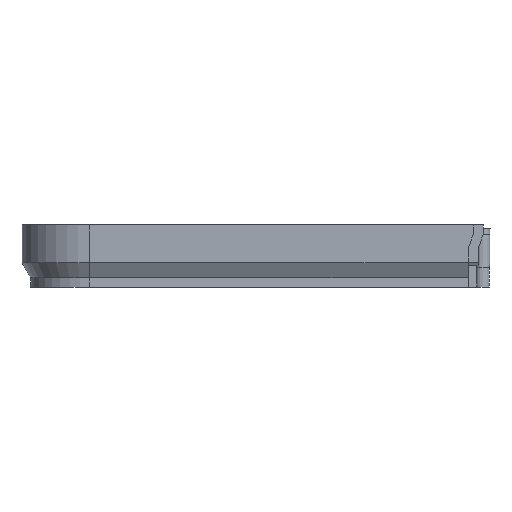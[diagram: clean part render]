
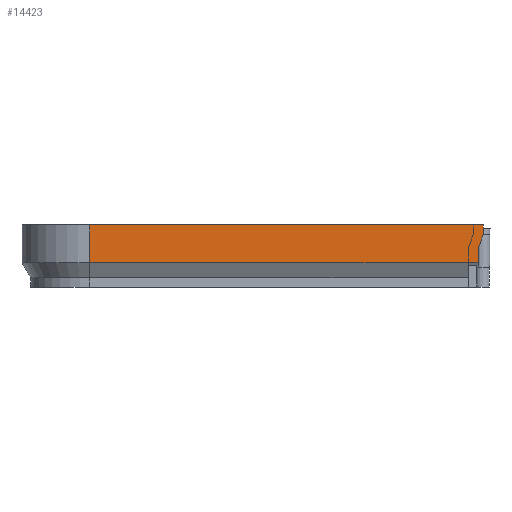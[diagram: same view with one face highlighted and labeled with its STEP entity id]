
A CAD part, left-side view. The second image highlights one B-rep face of the part: STEP entity #14423.
In plain terms, the highlighted planar face has unit normal (-1, 0, 0).
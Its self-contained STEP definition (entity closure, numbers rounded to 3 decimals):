
#1915 = PLANE('',#1916);
#1916 = AXIS2_PLACEMENT_3D('',#1917,#1918,#1919);
#1917 = CARTESIAN_POINT('',(0.,-3.046,25.));
#1918 = DIRECTION('',(0.,0.,1.));
#1919 = DIRECTION('',(1.,0.,-0.));
#6324 = VERTEX_POINT('',#6325);
#6325 = CARTESIAN_POINT('',(-195.2,152.,25.));
#6340 = CYLINDRICAL_SURFACE('',#6341,27.2);
#6341 = AXIS2_PLACEMENT_3D('',#6342,#6343,#6344);
#6342 = CARTESIAN_POINT('',(-168.,152.,9.762));
#6343 = DIRECTION('',(-0.,-0.,-1.));
#6344 = DIRECTION('',(1.,0.,-0.));
#6352 = EDGE_CURVE('',#6324,#6353,#6355,.T.);
#6353 = VERTEX_POINT('',#6354);
#6354 = CARTESIAN_POINT('',(-195.2,-5.9,25.));
#6355 = SURFACE_CURVE('',#6356,(#6360,#6367),.PCURVE_S1.);
#6356 = LINE('',#6357,#6358);
#6357 = CARTESIAN_POINT('',(-195.2,152.,25.));
#6358 = VECTOR('',#6359,1.);
#6359 = DIRECTION('',(0.,-1.,0.));
#6360 = PCURVE('',#1915,#6361);
#6361 = DEFINITIONAL_REPRESENTATION('',(#6362),#6366);
#6362 = LINE('',#6363,#6364);
#6363 = CARTESIAN_POINT('',(-195.2,155.046));
#6364 = VECTOR('',#6365,1.);
#6365 = DIRECTION('',(0.,-1.));
#6366 = ( GEOMETRIC_REPRESENTATION_CONTEXT(2) 
PARAMETRIC_REPRESENTATION_CONTEXT() REPRESENTATION_CONTEXT('2D SPACE',''
  ) );
#6367 = PCURVE('',#6368,#6373);
#6368 = PLANE('',#6369);
#6369 = AXIS2_PLACEMENT_3D('',#6370,#6371,#6372);
#6370 = CARTESIAN_POINT('',(-195.2,152.,9.762));
#6371 = DIRECTION('',(1.,0.,-0.));
#6372 = DIRECTION('',(0.,-1.,0.));
#6373 = DEFINITIONAL_REPRESENTATION('',(#6374),#6378);
#6374 = LINE('',#6375,#6376);
#6375 = CARTESIAN_POINT('',(0.,-15.238));
#6376 = VECTOR('',#6377,1.);
#6377 = DIRECTION('',(1.,0.));
#6378 = ( GEOMETRIC_REPRESENTATION_CONTEXT(2) 
PARAMETRIC_REPRESENTATION_CONTEXT() REPRESENTATION_CONTEXT('2D SPACE',''
  ) );
#6395 = PLANE('',#6396);
#6396 = AXIS2_PLACEMENT_3D('',#6397,#6398,#6399);
#6397 = CARTESIAN_POINT('',(-195.4,-5.9,38.));
#6398 = DIRECTION('',(0.,-1.,0.));
#6399 = DIRECTION('',(1.,0.,0.));
#13979 = PLANE('',#13980);
#13980 = AXIS2_PLACEMENT_3D('',#13981,#13982,#13983);
#13981 = CARTESIAN_POINT('',(-193.45,-12.725,6.731));
#13982 = DIRECTION('',(-0.866,0.,-0.5));
#13983 = DIRECTION('',(0.,-1.,
    0.));
#14077 = PLANE('',#14078);
#14078 = AXIS2_PLACEMENT_3D('',#14079,#14080,#14081);
#14079 = CARTESIAN_POINT('',(-195.4,-3.9,8.));
#14080 = DIRECTION('',(0.,-1.,0.));
#14081 = DIRECTION('',(1.,0.,0.));
#14144 = PLANE('',#14145);
#14145 = AXIS2_PLACEMENT_3D('',#14146,#14147,#14148);
#14146 = CARTESIAN_POINT('',(-195.4,-5.9,21.));
#14147 = DIRECTION('',(0.,-0.94,-0.342));
#14148 = DIRECTION('',(1.,0.,0.));
#14212 = EDGE_CURVE('',#6324,#14213,#14215,.T.);
#14213 = VERTEX_POINT('',#14214);
#14214 = CARTESIAN_POINT('',(-195.2,152.,9.762));
#14215 = SURFACE_CURVE('',#14216,(#14220,#14227),.PCURVE_S1.);
#14216 = LINE('',#14217,#14218);
#14217 = CARTESIAN_POINT('',(-195.2,152.,25.));
#14218 = VECTOR('',#14219,1.);
#14219 = DIRECTION('',(0.,0.,-1.));
#14220 = PCURVE('',#6340,#14221);
#14221 = DEFINITIONAL_REPRESENTATION('',(#14222),#14226);
#14222 = LINE('',#14223,#14224);
#14223 = CARTESIAN_POINT('',(-3.142,-15.238));
#14224 = VECTOR('',#14225,1.);
#14225 = DIRECTION('',(0.,1.));
#14226 = ( GEOMETRIC_REPRESENTATION_CONTEXT(2) 
PARAMETRIC_REPRESENTATION_CONTEXT() REPRESENTATION_CONTEXT('2D SPACE',''
  ) );
#14227 = PCURVE('',#6368,#14228);
#14228 = DEFINITIONAL_REPRESENTATION('',(#14229),#14233);
#14229 = LINE('',#14230,#14231);
#14230 = CARTESIAN_POINT('',(0.,-15.238));
#14231 = VECTOR('',#14232,1.);
#14232 = DIRECTION('',(0.,1.));
#14233 = ( GEOMETRIC_REPRESENTATION_CONTEXT(2) 
PARAMETRIC_REPRESENTATION_CONTEXT() REPRESENTATION_CONTEXT('2D SPACE',''
  ) );
#14380 = EDGE_CURVE('',#6353,#14381,#14383,.T.);
#14381 = VERTEX_POINT('',#14382);
#14382 = CARTESIAN_POINT('',(-195.2,-5.9,21.));
#14383 = SURFACE_CURVE('',#14384,(#14388,#14394),.PCURVE_S1.);
#14384 = LINE('',#14385,#14386);
#14385 = CARTESIAN_POINT('',(-195.2,-5.9,23.881));
#14386 = VECTOR('',#14387,1.);
#14387 = DIRECTION('',(0.,-0.,-1.));
#14388 = PCURVE('',#6395,#14389);
#14389 = DEFINITIONAL_REPRESENTATION('',(#14390),#14393);
#14390 = B_SPLINE_CURVE_WITH_KNOTS('',1,(#14391,#14392),.UNSPECIFIED.,
  .F.,.F.,(2,2),(-1.119,2.881),
  .PIECEWISE_BEZIER_KNOTS.);
#14391 = CARTESIAN_POINT('',(0.2,-13.));
#14392 = CARTESIAN_POINT('',(0.2,-17.));
#14393 = ( GEOMETRIC_REPRESENTATION_CONTEXT(2) 
PARAMETRIC_REPRESENTATION_CONTEXT() REPRESENTATION_CONTEXT('2D SPACE',''
  ) );
#14394 = PCURVE('',#6368,#14395);
#14395 = DEFINITIONAL_REPRESENTATION('',(#14396),#14399);
#14396 = B_SPLINE_CURVE_WITH_KNOTS('',1,(#14397,#14398),.UNSPECIFIED.,
  .F.,.F.,(2,2),(-1.119,2.881),
  .PIECEWISE_BEZIER_KNOTS.);
#14397 = CARTESIAN_POINT('',(157.9,-15.238));
#14398 = CARTESIAN_POINT('',(157.9,-11.238));
#14399 = ( GEOMETRIC_REPRESENTATION_CONTEXT(2) 
PARAMETRIC_REPRESENTATION_CONTEXT() REPRESENTATION_CONTEXT('2D SPACE',''
  ) );
#14423 = ADVANCED_FACE('',(#14424),#6368,.F.);
#14424 = FACE_BOUND('',#14425,.F.);
#14425 = EDGE_LOOP('',(#14426,#14427,#14428,#14429,#14450,#14471));
#14426 = ORIENTED_EDGE('',*,*,#14212,.F.);
#14427 = ORIENTED_EDGE('',*,*,#6352,.T.);
#14428 = ORIENTED_EDGE('',*,*,#14380,.T.);
#14429 = ORIENTED_EDGE('',*,*,#14430,.T.);
#14430 = EDGE_CURVE('',#14381,#14431,#14433,.T.);
#14431 = VERTEX_POINT('',#14432);
#14432 = CARTESIAN_POINT('',(-195.2,-3.9,15.5));
#14433 = SURFACE_CURVE('',#14434,(#14438,#14444),.PCURVE_S1.);
#14434 = LINE('',#14435,#14436);
#14435 = CARTESIAN_POINT('',(-195.2,5.125,-9.319));
#14436 = VECTOR('',#14437,1.);
#14437 = DIRECTION('',(-0.,0.342,-0.94));
#14438 = PCURVE('',#6368,#14439);
#14439 = DEFINITIONAL_REPRESENTATION('',(#14440),#14443);
#14440 = B_SPLINE_CURVE_WITH_KNOTS('',1,(#14441,#14442),.UNSPECIFIED.,
  .F.,.F.,(2,2),(-32.261,-26.409),
  .PIECEWISE_BEZIER_KNOTS.);
#14441 = CARTESIAN_POINT('',(157.9,-11.238));
#14442 = CARTESIAN_POINT('',(155.9,-5.738));
#14443 = ( GEOMETRIC_REPRESENTATION_CONTEXT(2) 
PARAMETRIC_REPRESENTATION_CONTEXT() REPRESENTATION_CONTEXT('2D SPACE',''
  ) );
#14444 = PCURVE('',#14144,#14445);
#14445 = DEFINITIONAL_REPRESENTATION('',(#14446),#14449);
#14446 = B_SPLINE_CURVE_WITH_KNOTS('',1,(#14447,#14448),.UNSPECIFIED.,
  .F.,.F.,(2,2),(-32.261,-26.409),
  .PIECEWISE_BEZIER_KNOTS.);
#14447 = CARTESIAN_POINT('',(0.2,0.));
#14448 = CARTESIAN_POINT('',(0.2,-5.852));
#14449 = ( GEOMETRIC_REPRESENTATION_CONTEXT(2) 
PARAMETRIC_REPRESENTATION_CONTEXT() REPRESENTATION_CONTEXT('2D SPACE',''
  ) );
#14450 = ORIENTED_EDGE('',*,*,#14451,.T.);
#14451 = EDGE_CURVE('',#14431,#14452,#14454,.T.);
#14452 = VERTEX_POINT('',#14453);
#14453 = CARTESIAN_POINT('',(-195.2,-3.9,9.762));
#14454 = SURFACE_CURVE('',#14455,(#14459,#14465),.PCURVE_S1.);
#14455 = LINE('',#14456,#14457);
#14456 = CARTESIAN_POINT('',(-195.2,-3.9,8.881));
#14457 = VECTOR('',#14458,1.);
#14458 = DIRECTION('',(0.,-0.,-1.));
#14459 = PCURVE('',#6368,#14460);
#14460 = DEFINITIONAL_REPRESENTATION('',(#14461),#14464);
#14461 = B_SPLINE_CURVE_WITH_KNOTS('',1,(#14462,#14463),.UNSPECIFIED.,
  .F.,.F.,(2,2),(-6.619,-0.881),
  .PIECEWISE_BEZIER_KNOTS.);
#14462 = CARTESIAN_POINT('',(155.9,-5.738));
#14463 = CARTESIAN_POINT('',(155.9,0.));
#14464 = ( GEOMETRIC_REPRESENTATION_CONTEXT(2) 
PARAMETRIC_REPRESENTATION_CONTEXT() REPRESENTATION_CONTEXT('2D SPACE',''
  ) );
#14465 = PCURVE('',#14077,#14466);
#14466 = DEFINITIONAL_REPRESENTATION('',(#14467),#14470);
#14467 = B_SPLINE_CURVE_WITH_KNOTS('',1,(#14468,#14469),.UNSPECIFIED.,
  .F.,.F.,(2,2),(-6.619,-0.881),
  .PIECEWISE_BEZIER_KNOTS.);
#14468 = CARTESIAN_POINT('',(0.2,7.5));
#14469 = CARTESIAN_POINT('',(0.2,1.762));
#14470 = ( GEOMETRIC_REPRESENTATION_CONTEXT(2) 
PARAMETRIC_REPRESENTATION_CONTEXT() REPRESENTATION_CONTEXT('2D SPACE',''
  ) );
#14471 = ORIENTED_EDGE('',*,*,#14472,.F.);
#14472 = EDGE_CURVE('',#14213,#14452,#14473,.T.);
#14473 = SURFACE_CURVE('',#14474,(#14478,#14485),.PCURVE_S1.);
#14474 = LINE('',#14475,#14476);
#14475 = CARTESIAN_POINT('',(-195.2,152.,9.762));
#14476 = VECTOR('',#14477,1.);
#14477 = DIRECTION('',(0.,-1.,0.));
#14478 = PCURVE('',#6368,#14479);
#14479 = DEFINITIONAL_REPRESENTATION('',(#14480),#14484);
#14480 = LINE('',#14481,#14482);
#14481 = CARTESIAN_POINT('',(0.,0.));
#14482 = VECTOR('',#14483,1.);
#14483 = DIRECTION('',(1.,0.));
#14484 = ( GEOMETRIC_REPRESENTATION_CONTEXT(2) 
PARAMETRIC_REPRESENTATION_CONTEXT() REPRESENTATION_CONTEXT('2D SPACE',''
  ) );
#14485 = PCURVE('',#13979,#14486);
#14486 = DEFINITIONAL_REPRESENTATION('',(#14487),#14491);
#14487 = LINE('',#14488,#14489);
#14488 = CARTESIAN_POINT('',(-164.725,3.519));
#14489 = VECTOR('',#14490,1.);
#14490 = DIRECTION('',(1.,0.));
#14491 = ( GEOMETRIC_REPRESENTATION_CONTEXT(2) 
PARAMETRIC_REPRESENTATION_CONTEXT() REPRESENTATION_CONTEXT('2D SPACE',''
  ) );
